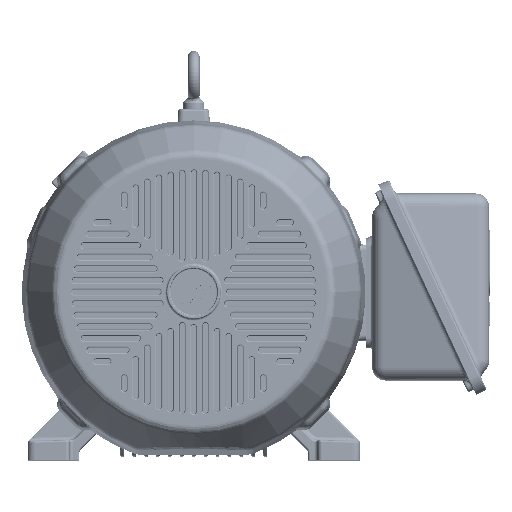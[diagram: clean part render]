
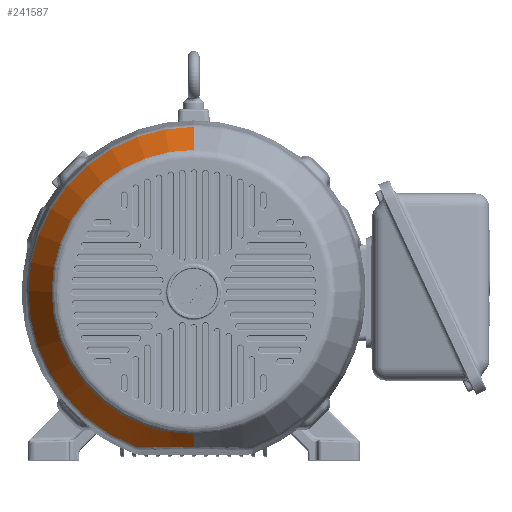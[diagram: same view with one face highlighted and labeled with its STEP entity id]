
A CAD part, top view. The second image highlights one B-rep face of the part: STEP entity #241587.
In plain terms, the highlighted conical face has half-angle 30 degrees and reference radius 255.525 mm.
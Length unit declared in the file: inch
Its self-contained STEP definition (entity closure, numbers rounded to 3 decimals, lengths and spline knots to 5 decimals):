
#233313=CARTESIAN_POINT('',(3.81286,-10.11872,
-5.82586));
#233314=CARTESIAN_POINT('',(3.65687,-10.1189,
-5.92084));
#233315=CARTESIAN_POINT('',(3.34567,-10.11941,
-6.09948));
#233316=CARTESIAN_POINT('',(2.90008,-10.12043,
-6.32573));
#233317=CARTESIAN_POINT('',(2.4157,-10.1217,
-6.53785));
#233318=CARTESIAN_POINT('',(1.90238,-10.12309,
-6.72194));
#233319=CARTESIAN_POINT('',(1.34925,-10.12442,
-6.87322));
#233320=CARTESIAN_POINT('',(0.73206,-10.12551,
-6.98374));
#233321=CARTESIAN_POINT('',(0.25443,-10.12585,
-7.01647));
#233322=CARTESIAN_POINT('',(0.,-10.12585,
-7.01647));
#233324=DIRECTION('',(0.,0.5,0.866));
#233325=VECTOR('',#233324,3.01277);
#233326=CARTESIAN_POINT('',(0.,9.30687,-8.435));
#233327=LINE('',#233326,#233325);
#233328=CARTESIAN_POINT('',(0.,0.,-8.435));
#233329=DIRECTION('',(0.,0.,-1.));
#233330=DIRECTION('',(0.,1.,0.));
#233331=AXIS2_PLACEMENT_3D('',#233328,#233329,#233330);
#233333=DIRECTION('',(0.,-0.5,0.866));
#233334=VECTOR('',#233333,1.63798);
#233335=CARTESIAN_POINT('',(0.,-9.30687,-8.435));
#233336=LINE('',#233335,#233334);
#233872=CARTESIAN_POINT('',(0.,0.,-5.82586));
#233873=DIRECTION('',(0.,0.,-1.));
#233874=DIRECTION('',(0.,1.,0.));
#233875=AXIS2_PLACEMENT_3D('',#233872,#233873,#233874);
#233887=CARTESIAN_POINT('',(0.,-10.12585,
-7.01647));
#239390=CARTESIAN_POINT('',(0.,9.30687,-8.435));
#239392=VERTEX_POINT('',#239390);
#239393=CARTESIAN_POINT('',(0.,10.81325,-5.82586));
#239394=VERTEX_POINT('',#239393);
#239396=CARTESIAN_POINT('',(0.,-9.30687,-8.435));
#239398=VERTEX_POINT('',#239396);
#239804=VERTEX_POINT('',#233887);
#239806=VERTEX_POINT('',#233313);
#241571=CARTESIAN_POINT('',(0.,0.,-7.13043));
#241572=DIRECTION('',(0.,0.,1.));
#241573=DIRECTION('',(0.,1.,0.));
#241574=AXIS2_PLACEMENT_3D('',#241571,#241572,#241573);
#241575=CONICAL_SURFACE('',#241574,10.06006,30.);
#241577=ORIENTED_EDGE('',*,*,#241576,.F.);
#241579=ORIENTED_EDGE('',*,*,#241578,.F.);
#241581=ORIENTED_EDGE('',*,*,#241580,.F.);
#241582=ORIENTED_EDGE('',*,*,#241566,.T.);
#241584=ORIENTED_EDGE('',*,*,#241583,.T.);
#241585=EDGE_LOOP('',(#241577,#241579,#241581,#241582,#241584));
#241586=FACE_OUTER_BOUND('',#241585,.F.);
#241587=ADVANCED_FACE('',(#241586),#241575,.T.);
#233323=B_SPLINE_CURVE_WITH_KNOTS('',3,(#233313,#233314,#233315,#233316,#233317,
#233318,#233319,#233320,#233321,#233322),.UNSPECIFIED.,.F.,.F.,(4,1,1,1,1,1,1,
4),(0.,0.14286,0.28571,0.42857,
0.57143,0.71429,0.85714,1.),.UNSPECIFIED.);
#233332=CIRCLE('',#233331,9.30687);
#233876=CIRCLE('',#233875,10.81325);
#241566=EDGE_CURVE('',#239392,#239398,#233332,.T.);
#241576=EDGE_CURVE('',#239806,#239804,#233323,.T.);
#241578=EDGE_CURVE('',#239394,#239806,#233876,.T.);
#241580=EDGE_CURVE('',#239392,#239394,#233327,.T.);
#241583=EDGE_CURVE('',#239398,#239804,#233336,.T.);
